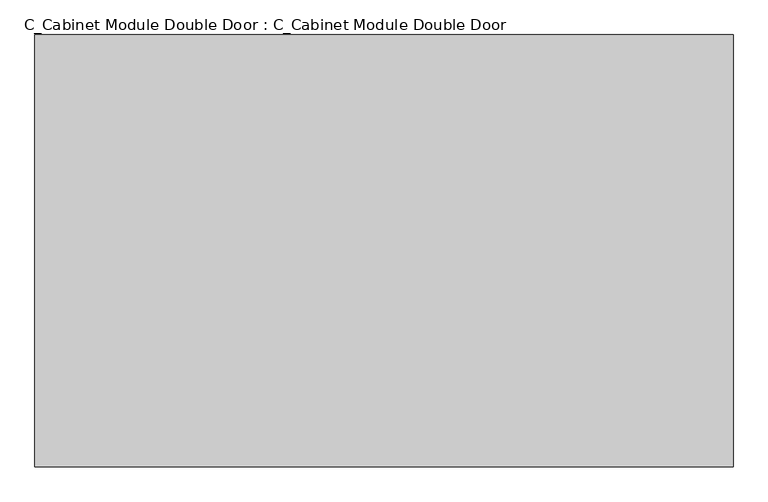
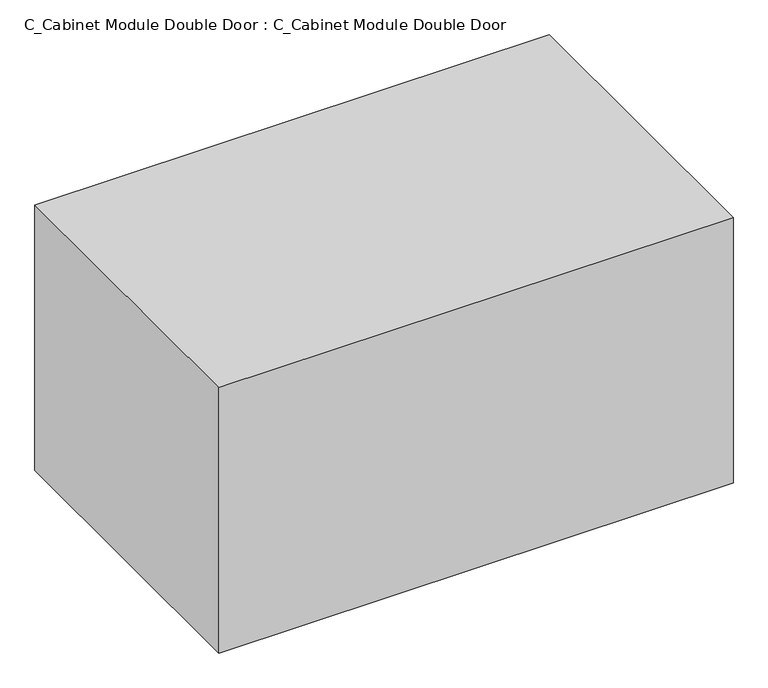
"""IFC4 building model written with IfcOpenShell, lengths in millimetres: furniture geometry, C_Cabinet Module Double Door : C_Cabinet Module Double Door."""

from ifc_helpers import new_model, si_unit, origin, origin_with_axes, place, context, project, spatial, polyline, outline, extrude, source, transform, mapped, element, save


def c_cabinet_module_double_door_c_cabinet_module_double_door_1fb921e0(model_context):
    return source(origin(), model_context, "Body", "SweptSolid", [
        extrude(outline(polyline([(533.4, 0.0), (-533.4, 0.0), (-533.4, 660.4), (533.4, 660.4), (533.4, 0.0)])), origin_with_axes(), (0.0, 0.0, 1.0), 582.6125),
    ])


if __name__ == "__main__":
    model = new_model("IFC4")
    model_context = context("Model", 3, world=origin())
    ifc_project = project(units=[si_unit("LENGTHUNIT", "METRE", prefix="MILLI")], contexts=[model_context])
    site = spatial("IfcSite", under=ifc_project)
    building = spatial("IfcBuilding", under=site)
    placement = place(None, origin())
    c_cabinet_module_double_door_c_cabinet_module_double_door_shape = c_cabinet_module_double_door_c_cabinet_module_double_door_1fb921e0(model_context)
    element("IfcFurniture", 1, ObjectType="C_Cabinet Module Double Door : C_Cabinet Module Double Door", at=placement, inside=building, context=model_context, shape_type="MappedRepresentation", body=[
        mapped(c_cabinet_module_double_door_c_cabinet_module_double_door_shape, transform((0.0, 0.0, 0.0), x_axis=(1.0, 0.0, 0.0), y_axis=(0.0, 1.0, 0.0), z_axis=(0.0, 0.0, 1.0))),
    ])
    save(model, "model.ifc")
